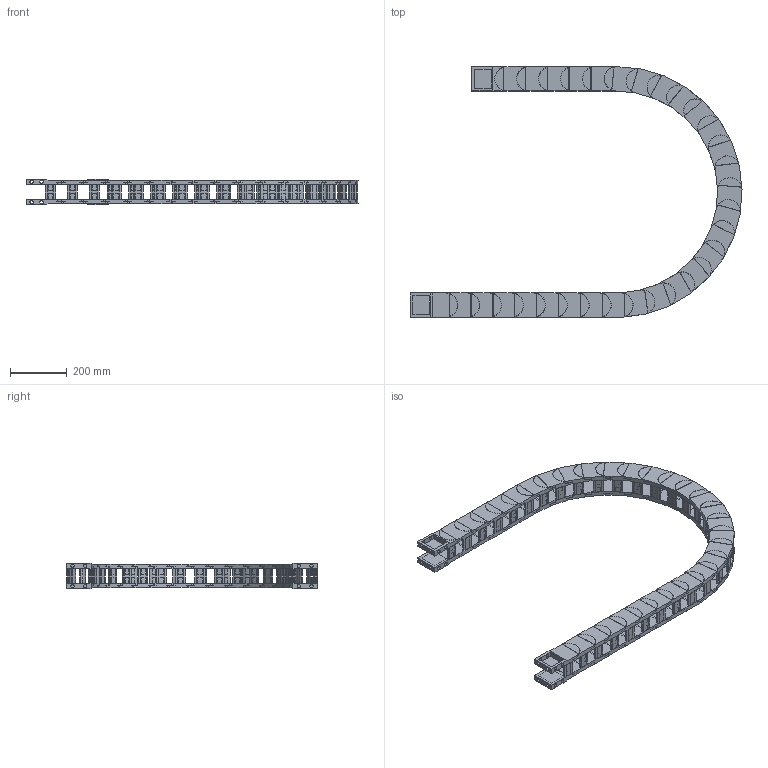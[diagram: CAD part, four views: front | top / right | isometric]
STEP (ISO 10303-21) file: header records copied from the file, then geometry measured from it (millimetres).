
FILE_DESCRIPTION((''),'2;1');
FILE_NAME('HD65-R400-ZPT_ASM','2022-06-18T10:38:13',('admin'),(''),'CREO PARAMETRIC BY PTC INC, 2021164','CREO PARAMETRIC BY PTC INC, 2021164','');
FILE_SCHEMA(('CONFIG_CONTROL_DESIGN','GEOMETRIC_VALIDATION_PROPERTIES_MIM'));
Length unit declared in the file: millimetre
Products named in the file (6): HD65; 65-50HDQSYP; HD65_ASM; H65-T1; H65-T2; HD65-R400-ZPT_ASM
Assembly tree (35 placements, depth 3):
  HD65-R400-ZPT_ASM
    HD65_ASM  x29
      HD65
      65-50HDQSYP
    H65-T1
    H65-T2
    65-50HDQSYP  x2
Bounding box: 1173.19 x 885.73 x 90 mm (x, y, z)
Volume: 7827538.1 mm3; surface area: 2358067.8 mm2
Topology: 124 solids, 124 shells, 2276 faces, 5998 edges, 4098 vertices
Faces by surface type: plane 1752, cylinder 524
Entity records: 9004 total; most frequent: CARTESIAN_POINT 1346, DIRECTION 1314, ORIENTED_EDGE 1212, EDGE_CURVE 606, AXIS2_PLACEMENT_3D 445, VECTOR 424, LINE 424, VERTEX_POINT 410
